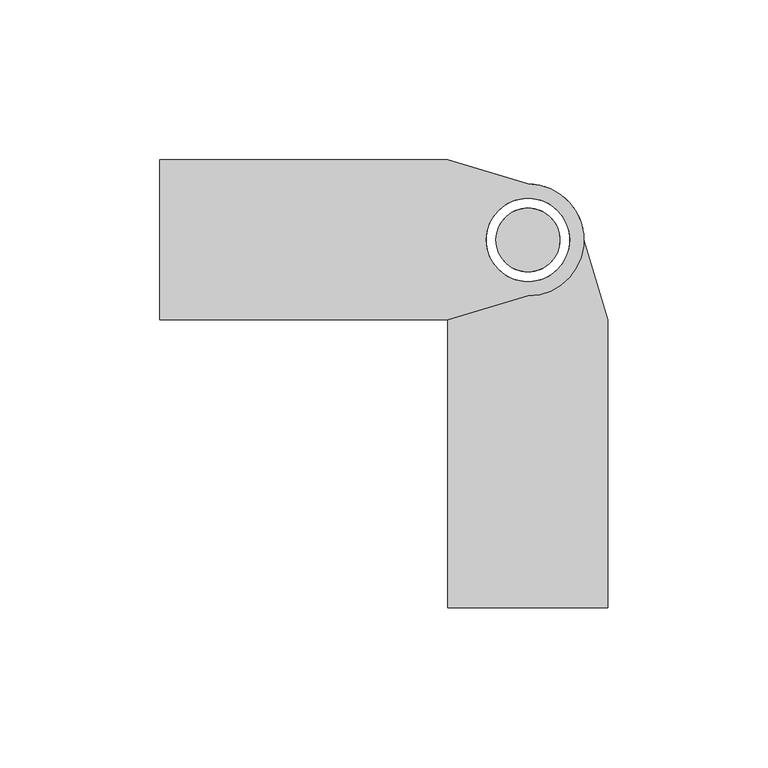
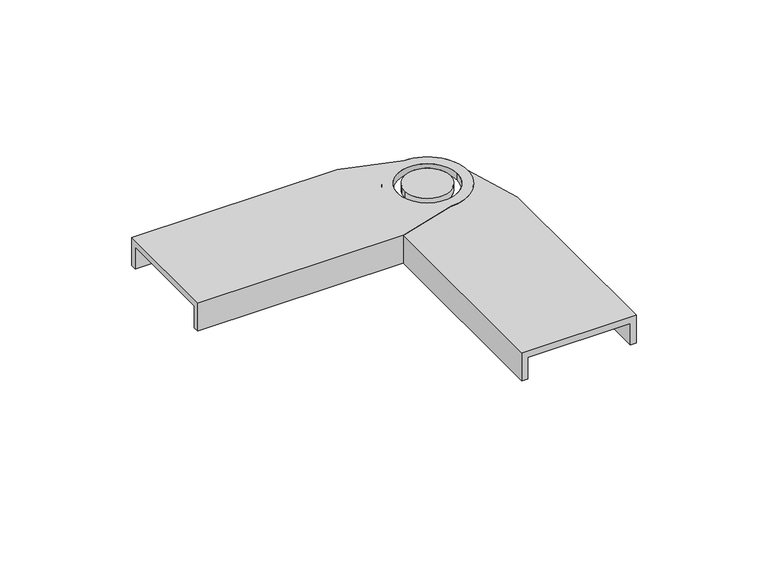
"""IFC4 building model written with IfcOpenShell, lengths in millimetres: cable carrier fitting geometry, BAKS_LD_BEND_Articulated connector_LG : LGT_H45."""

import ifcopenshell
import ifcopenshell.guid

model = None  # the IFC model being written
_history = None  # IfcOwnerHistory: only IFC2X3 demands one
_inside = {}  # id of a spatial element -> (the spatial element, [elements in it])
_under = {}  # id of a project, library or spatial element -> (it, [spatial elements below it])
_declared = {}  # id of a project -> (the project, [libraries it declares])
_typed = {}  # id of a type object -> (the type object, [elements of that type])
_made_of = {}  # id of a material, layer set ... -> (it, [elements and type objects made of it])


def new_model(schema):
    """Start an empty IFC model of exactly this schema.

    Asked for "IFC4X3", IfcOpenShell would pick the latest addendum, in which some entities
    have other attributes; the version numbers below select the first issue.
    IFC2X3 requires an IfcOwnerHistory on every rooted entity: one is made here for all.
    """
    global model, _history
    if schema == "IFC4X3":
        model = ifcopenshell.file(schema_version=(4, 3, 0, 0))
    else:
        model = ifcopenshell.file(schema=schema)
    _inside.clear()
    _under.clear()
    _declared.clear()
    _typed.clear()
    _made_of.clear()
    _history = None
    if model.schema == "IFC2X3":
        org = make("IfcOrganization", Name="unknown")
        user = make(
            "IfcPersonAndOrganization",
            ThePerson=make("IfcPerson", FamilyName="unknown"),
            TheOrganization=org,
        )
        app = make(
            "IfcApplication",
            ApplicationDeveloper=org,
            Version="unknown",
            ApplicationFullName="unknown",
            ApplicationIdentifier="unknown",
        )
        _history = make(
            "IfcOwnerHistory",
            OwningUser=user,
            OwningApplication=app,
            ChangeAction="ADDED",
            CreationDate=0,
        )
    return model


def make(cls, **values):
    """One entity of the class cls with the attributes given. An attribute that is None is left unset."""
    return model.create_entity(
        cls, **{name: value for name, value in values.items() if value is not None}
    )


def rooted(cls, **values):
    """An entity with a GlobalId (a new one), such as an element, a storey or a relation."""
    return make(cls, GlobalId=ifcopenshell.guid.new(), OwnerHistory=_history, **values)


def si_unit(unit_type, name, prefix=None):
    """IfcSIUnit, for example si_unit("LENGTHUNIT", "METRE", prefix="MILLI")."""
    return make("IfcSIUnit", UnitType=unit_type, Prefix=prefix, Name=name)


def assignment(units):
    """IfcUnitAssignment: the units of a project."""
    return None if units is None else make("IfcUnitAssignment", Units=units)


def point(xyz):
    """IfcCartesianPoint."""
    return None if xyz is None else make("IfcCartesianPoint", Coordinates=xyz)


def direction(xyz):
    """IfcDirection."""
    return None if xyz is None else make("IfcDirection", DirectionRatios=xyz)


def frame(location, z_axis=None, x_axis=None):
    """IfcAxis2Placement3D, a coordinate frame: its origin and axes. An axis left out is left unset."""
    return make(
        "IfcAxis2Placement3D",
        Location=point(location),
        Axis=direction(z_axis),
        RefDirection=direction(x_axis),
    )


def origin():
    """The frame at (0, 0, 0) with its axes left unset."""
    return frame((0.0, 0.0, 0.0))


def place(relative_to, where):
    """IfcLocalPlacement: puts the frame where relative to a parent placement (None: the world)."""
    return make(
        "IfcLocalPlacement", PlacementRelTo=relative_to, RelativePlacement=where
    )


def context(
    kind, dimensions, precision=None, world=None, true_north=None, identifier=None
):
    """IfcGeometricRepresentationContext, for example the 3D "Model" context."""
    return make(
        "IfcGeometricRepresentationContext",
        ContextIdentifier=identifier,
        ContextType=kind,
        CoordinateSpaceDimension=dimensions,
        Precision=precision,
        WorldCoordinateSystem=world,
        TrueNorth=true_north,
    )


def project(units=None, contexts=None):
    """IfcProject with its units and contexts."""
    return rooted(
        "IfcProject",
        Name="project",
        RepresentationContexts=contexts,
        UnitsInContext=assignment(units),
    )


def spatial(cls, under=None, at=None, **own):
    """A site, building, storey or space (cls), placed at a placement, below another one or the project."""
    s = rooted(cls, ObjectPlacement=at, **own)
    if under is not None:
        _under.setdefault(under.id(), (under, []))[1].append(s)
    return s


def polyline(points):
    """IfcPolyline through the points."""
    return make("IfcPolyline", Points=[point(p) for p in points])


def circle_curve(where, radius):
    """IfcCircle in the frame where."""
    return make("IfcCircle", Position=where, Radius=radius)


def shape(context_of_items, identifier, shape_type, items):
    """IfcShapeRepresentation: the items that make up one representation, for example the "Body"."""
    return make(
        "IfcShapeRepresentation",
        ContextOfItems=context_of_items,
        RepresentationIdentifier=identifier,
        RepresentationType=shape_type,
        Items=items,
    )


def source(mapping_origin, context_of_items, identifier, shape_type, items):
    """IfcRepresentationMap: a shape defined once, which mapped items show again and again."""
    return make(
        "IfcRepresentationMap",
        MappingOrigin=mapping_origin,
        MappedRepresentation=shape(context_of_items, identifier, shape_type, items),
    )


def transform(
    local_origin,
    x_axis=None,
    y_axis=None,
    z_axis=None,
    scale=None,
    scale2=None,
    scale3=None,
    uniform=True,
):
    """IfcCartesianTransformationOperator3D, or its non-uniform kind. x_axis, y_axis, z_axis: its Axis1, 2, 3."""
    if uniform:
        return make(
            "IfcCartesianTransformationOperator3D",
            Axis1=direction(x_axis),
            Axis2=direction(y_axis),
            LocalOrigin=point(local_origin),
            Scale=scale,
            Axis3=direction(z_axis),
        )
    return make(
        "IfcCartesianTransformationOperator3DnonUniform",
        Axis1=direction(x_axis),
        Axis2=direction(y_axis),
        LocalOrigin=point(local_origin),
        Scale=scale,
        Axis3=direction(z_axis),
        Scale2=scale2,
        Scale3=scale3,
    )


def mapped(mapping_source, mapping_target):
    """IfcMappedItem: shows the shape of a source again, moved by a transform."""
    return make(
        "IfcMappedItem", MappingSource=mapping_source, MappingTarget=mapping_target
    )


def made_of(thing, what):
    """Note that an element or type object is made of a material, layer set ...; save() writes the relation."""
    if what is not None:
        _made_of.setdefault(what.id(), (what, []))[1].append(thing)
    return thing


def element(
    cls,
    number,
    at=None,
    inside=None,
    cuts=None,
    type_object=None,
    material=None,
    context=None,
    identifier="Body",
    shape_type=None,
    held_by="IfcProductDefinitionShape",
    body=None,
    shapes=None,
    **own,
):
    """One element of the class cls, such as IfcWall. Its Tag is "e" and its number.

    at: its placement. inside: the storey or other place that contains it. cuts: it is an
    opening in that element (IfcRelVoidsElement). A single representation is given by context,
    identifier, shape_type and body (its items); several are given by shapes. held_by: the class
    of the entity that holds the representations. save() writes the other relations.
    """
    e = rooted(cls, Tag="e%d" % number, ObjectPlacement=at, **own)
    if body is not None:
        shapes = [shape(context, identifier, shape_type, body)]
    if shapes is not None:
        e.Representation = make(held_by, Representations=shapes)
    if inside is not None:
        _inside.setdefault(inside.id(), (inside, []))[1].append(e)
    if cuts is not None:
        rooted(
            "IfcRelVoidsElement", RelatingBuildingElement=cuts, RelatedOpeningElement=e
        )
    if type_object is not None:
        _typed.setdefault(type_object.id(), (type_object, []))[1].append(e)
    return made_of(e, material)


def aggregate(whole, parts):
    """IfcRelAggregates: a whole, such as a stair, and the parts it consists of."""
    return rooted("IfcRelAggregates", RelatingObject=whole, RelatedObjects=parts)


def save(model, path):
    """Write the relations noted so far, then the file.

    IfcRelAggregates (storeys below a building ...), IfcRelContainedInSpatialStructure (elements
    in a storey), IfcRelDefinesByType, IfcRelAssociatesMaterial and IfcRelDeclares: one each for
    every whole, place, type object, material and project.
    """
    for whole, parts in _under.values():
        aggregate(whole, parts)
    for where, things in _inside.values():
        rooted(
            "IfcRelContainedInSpatialStructure",
            RelatedElements=things,
            RelatingStructure=where,
        )
    for kind, things in _typed.values():
        rooted("IfcRelDefinesByType", RelatedObjects=things, RelatingType=kind)
    for what, things in _made_of.values():
        rooted("IfcRelAssociatesMaterial", RelatedObjects=things, RelatingMaterial=what)
    for by, libraries in _declared.values():
        rooted("IfcRelDeclares", RelatingContext=by, RelatedDefinitions=libraries)
    model.write(path)


def plane_surface(at):
    """IfcPlane: the flat surface through the origin of the frame at, square to its z axis."""
    return make("IfcPlane", Position=at)


def cylinder_surface(at, radius):
    """IfcCylindricalSurface: all points at the distance radius from the z axis of the frame at."""
    return make("IfcCylindricalSurface", Position=at, Radius=radius)


def revolved_surface(curve, axis_point, axis_direction):
    """IfcSurfaceOfRevolution: the curve turned about the line through axis_point along axis_direction."""
    return make(
        "IfcSurfaceOfRevolution",
        SweptCurve=make("IfcArbitraryOpenProfileDef", ProfileType="CURVE", Curve=curve),
        AxisPosition=make("IfcAxis1Placement", Location=point(axis_point), Axis=direction(axis_direction)),
    )


def advanced_brep(points, edges, surfaces, faces):
    """IfcAdvancedBrep: a solid bounded by faces that lie on surfaces and meet in shared edges.

    An edge is (start, end): straight between two places in points (the first is 0);
    or (start, end, curve); or (start, end, curve, False) where it runs against its curve.
    A face is (place in surfaces, loops), or (place, loops, False) where it looks against
    its surface's normal. A loop lists edges by number (the first is 1), with a minus sign
    where the edge is run from its end to its start. The first loop is the outer one.
    """
    corners = [point(p) for p in points]
    vertices = [make("IfcVertexPoint", VertexGeometry=c) for c in corners]
    made = []
    for start, end, *more in edges:
        made.append(
            make(
                "IfcEdgeCurve",
                EdgeStart=vertices[start],
                EdgeEnd=vertices[end],
                EdgeGeometry=more[0] if more else make("IfcPolyline", Points=[corners[start], corners[end]]),
                SameSense=more[1] if len(more) > 1 else True,
            )
        )
    hull = []
    for where, loops, *sense in faces:
        bounds = []
        for j, loop in enumerate(loops):
            ring = [make("IfcOrientedEdge", EdgeElement=made[abs(k) - 1], Orientation=k > 0) for k in loop]
            bounds.append(
                make(
                    "IfcFaceOuterBound" if j == 0 else "IfcFaceBound",
                    Bound=make("IfcEdgeLoop", EdgeList=ring),
                    Orientation=True,
                )
            )
        hull.append(make("IfcAdvancedFace", Bounds=bounds, FaceSurface=surfaces[where], SameSense=sense[0] if sense else True))
    return make("IfcAdvancedBrep", Outer=make("IfcClosedShell", CfsFaces=hull))


def cable_carrier_fitting_4c1293df(model_context):
    return source(origin(), model_context, "Body", "AdvancedBrep", [
        advanced_brep(
        [(-115.0, -25.0, 3.0), (-25.0, -25.0, 3.0), (0.0, -17.5, 3.0), (0.0, 17.5, 3.0), (-25.0, 25.0, 3.0), (-115.0, 25.0, 3.0), (13.0, 0.0, 3.0), (-13.0, 0.0, 3.0), (-25.0, 25.0, 0.0), (0.0, 17.5, 0.0), (0.0, -17.5, 0.0), (-25.0, -25.0, 0.0), (-25.0, -22.5, 0.0), (-115.0, -22.5, 0.0), (-115.0, 22.5, 0.0), (-25.0, 22.5, 0.0), (-13.0, 0.0, 0.0), (13.0, 0.0, 0.0), (-115.0, -25.0, -10.0), (-25.0, -25.0, -10.0), (-25.0, 25.0, -10.0), (-115.0, 25.0, -10.0), (-115.0, 22.5, -10.0), (-115.0, -22.5, -10.0), (-25.0, 22.5, -10.0), (-25.0, -22.5, -10.0)],
        [
            (0, 1),
            (1, 2),
            (2, 3, circle_curve(frame((0.0, 0.0, 3.0), z_axis=(0.0, 0.0, 1.0), x_axis=(-1.0, 0.0, 0.0)), 17.5)),
            (3, 4),
            (4, 5),
            (5, 0),
            (6, 7, circle_curve(frame((0.0, 0.0, 3.0), z_axis=(0.0, 0.0, -1.0), x_axis=(-1.0, 0.0, 0.0)), 13.0)),
            (7, 6, circle_curve(frame((0.0, 0.0, 3.0), z_axis=(0.0, 0.0, -1.0), x_axis=(-1.0, 0.0, 0.0)), 13.0)),
            (8, 9),
            (9, 10, circle_curve(frame((0.0, 0.0, 0.0), z_axis=(0.0, 0.0, -1.0), x_axis=(-1.0, 0.0, 0.0)), 17.5)),
            (10, 11),
            (11, 12),
            (12, 13),
            (13, 14),
            (14, 15),
            (15, 8),
            (16, 17, circle_curve(frame((0.0, 0.0, 0.0), z_axis=(0.0, 0.0, 1.0), x_axis=(-1.0, 0.0, 0.0)), 13.0)),
            (17, 16, circle_curve(frame((0.0, 0.0, 0.0), z_axis=(0.0, 0.0, 1.0), x_axis=(-1.0, 0.0, 0.0)), 13.0)),
            (0, 18),
            (18, 19),
            (19, 11),
            (11, 1),
            (4, 8),
            (8, 20),
            (20, 21),
            (21, 5),
            (21, 22),
            (22, 14),
            (13, 23),
            (23, 18),
            (6, 17),
            (16, 7),
            (10, 2),
            (9, 3),
            (20, 24),
            (24, 22),
            (24, 15),
            (23, 25),
            (25, 19),
            (25, 12),
        ],
        [
            plane_surface(frame((-25.0, -25.0, 3.0), z_axis=(0.0, 0.0, 1.0), x_axis=(1.0, 0.0, 0.0))),
            plane_surface(frame((-25.0, -25.0, 0.0), z_axis=(0.0, 0.0, -1.0), x_axis=(-1.0, 0.0, 0.0))),
            plane_surface(frame((-115.0, -25.0, 3.0), z_axis=(0.0, -1.0, 0.0), x_axis=(0.0, 0.0, -1.0))),
            plane_surface(frame((-25.0, 25.0, 3.0), z_axis=(0.0, 1.0, 0.0), x_axis=(0.0, 0.0, -1.0))),
            plane_surface(frame((-115.0, 25.0, 3.0), z_axis=(-1.0, 0.0, 0.0), x_axis=(0.0, 0.0, -1.0))),
            revolved_surface(polyline([(-13.0, 0.0, 3.0), (-13.0, 0.0, 0.0)]), (0.0, 0.0, 0.0), (0.0, 0.0, 1.0)),
            plane_surface(frame((-25.0, -25.0, 3.0), z_axis=(0.28734788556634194, -0.9578262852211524, 0.0), x_axis=(0.0, 0.0, -1.0))),
            cylinder_surface(frame((0.0, 0.0, 0.0), z_axis=(0.0, 0.0, 1.0), x_axis=(-1.0, 0.0, 0.0)), 17.5),
            plane_surface(frame((0.0, 17.5, 3.0), z_axis=(0.2873478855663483, 0.9578262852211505, 0.0), x_axis=(0.0, 0.0, -1.0))),
            plane_surface(frame((-25.0, 22.5, -10.0), z_axis=(0.0, 0.0, -1.0), x_axis=(-1.0, 0.0, 0.0))),
            plane_surface(frame((-115.0, 22.5, 0.0), z_axis=(0.0, -1.0, 0.0), x_axis=(0.0, 0.0, -1.0))),
            plane_surface(frame((-25.0, 22.5, 0.0), z_axis=(1.0, 0.0, 0.0), x_axis=(0.0, 0.0, -1.0))),
            plane_surface(frame((-25.0, -25.0, -10.0), z_axis=(0.0, 0.0, -1.0), x_axis=(-1.0, 0.0, 0.0))),
            plane_surface(frame((-25.0, -25.0, 0.0), z_axis=(1.0, 0.0, 0.0), x_axis=(0.0, 0.0, -1.0))),
            plane_surface(frame((-25.0, -22.5, 0.0), z_axis=(0.0, 1.0, 0.0), x_axis=(0.0, 0.0, -1.0))),
        ],
        [
            (0, [[1, 2, 3, 4, 5, 6], [7, 8]]),
            (1, [[9, 10, 11, 12, 13, 14, 15, 16], [17, 18]]),
            (2, [[-1, 19, 20, 21, 22]]),
            (3, [[-5, 23, 24, 25, 26]]),
            (4, [[-19, -6, -26, 27, 28, -14, 29, 30]]),
            (5, [[31, -17, 32, -7]]),
            (5, [[-31, -8, -32, -18]]),
            (6, [[-2, -22, -11, 33]]),
            (7, [[-3, -33, -10, 34]]),
            (8, [[-4, -34, -9, -23]]),
            (9, [[-27, -25, 35, 36]]),
            (10, [[-36, 37, -15, -28]]),
            (11, [[-35, -24, -16, -37]]),
            (12, [[-30, 38, 39, -20]]),
            (13, [[-39, 40, -12, -21]]),
            (14, [[-38, -29, -13, -40]]),
        ],
    ),
        advanced_brep(
        [(10.0, 0.0, 3.0), (-10.0, 0.0, 3.0), (-10.0, 0.0, 0.0), (10.0, 0.0, 0.0)],
        [
            (0, 1, circle_curve(frame((0.0, 0.0, 3.0), z_axis=(0.0, 0.0, 1.0), x_axis=(-1.0, 0.0, 0.0)), 10.0)),
            (1, 0, circle_curve(frame((0.0, 0.0, 3.0), z_axis=(0.0, 0.0, 1.0), x_axis=(-1.0, 0.0, 0.0)), 10.0)),
            (2, 3, circle_curve(frame((0.0, 0.0, 0.0), z_axis=(0.0, 0.0, -1.0), x_axis=(-1.0, 0.0, 0.0)), 10.0)),
            (3, 2, circle_curve(frame((0.0, 0.0, 0.0), z_axis=(0.0, 0.0, -1.0), x_axis=(-1.0, 0.0, 0.0)), 10.0)),
            (0, 3),
            (2, 1),
        ],
        [
            plane_surface(frame((-25.0, -25.0, 3.0), z_axis=(0.0, 0.0, 1.0), x_axis=(1.0, 0.0, 0.0))),
            plane_surface(frame((-25.0, -25.0, 0.0), z_axis=(0.0, 0.0, -1.0), x_axis=(-1.0, 0.0, 0.0))),
            cylinder_surface(frame((0.0, 0.0, 0.0), z_axis=(0.0, 0.0, -1.0), x_axis=(-1.0, 0.0, 0.0)), 10.0),
        ],
        [
            (0, [[1, 2]]),
            (1, [[3, 4]]),
            (2, [[5, -3, 6, -1]]),
            (2, [[-5, -2, -6, -4]]),
        ],
    ),
        advanced_brep(
        [(-25.0, -115.0, 3.0), (25.0, -115.0, 3.0), (25.0, -25.0, 3.0), (17.5, 0.0, 3.0), (-17.5, 0.0, 3.0), (-25.0, -25.0, 3.0), (0.0, 13.0, 3.0), (0.0, -13.0, 3.0), (25.0, -25.0, 0.0), (22.5, -25.0, 0.0), (22.5, -115.0, 0.0), (-22.5, -115.0, 0.0), (-22.5, -25.0, 0.0), (-25.0, -25.0, 0.0), (-17.5, 0.0, 0.0), (17.5, 0.0, 0.0), (0.0, -13.0, 0.0), (0.0, 13.0, 0.0), (-25.0, -25.0, -10.0), (-25.0, -115.0, -10.0), (25.0, -115.0, -10.0), (25.0, -25.0, -10.0), (-22.5, -115.0, -10.0), (22.5, -115.0, -10.0), (22.5, -25.0, -10.0), (-22.5, -25.0, -10.0)],
        [
            (0, 1),
            (1, 2),
            (2, 3),
            (3, 4, circle_curve(frame((0.0, 0.0, 3.0), z_axis=(0.0, 0.0, 1.0), x_axis=(0.0, -1.0, 0.0)), 17.5)),
            (4, 5),
            (5, 0),
            (6, 7, circle_curve(frame((0.0, 0.0, 3.0), z_axis=(0.0, 0.0, -1.0), x_axis=(0.0, -1.0, 0.0)), 13.0)),
            (7, 6, circle_curve(frame((0.0, 0.0, 3.0), z_axis=(0.0, 0.0, -1.0), x_axis=(0.0, -1.0, 0.0)), 13.0)),
            (8, 9),
            (9, 10),
            (10, 11),
            (11, 12),
            (12, 13),
            (13, 14),
            (14, 15, circle_curve(frame((0.0, 0.0, 0.0), z_axis=(0.0, 0.0, -1.0), x_axis=(0.0, -1.0, 0.0)), 17.5)),
            (15, 8),
            (16, 17, circle_curve(frame((0.0, 0.0, 0.0), z_axis=(0.0, 0.0, 1.0), x_axis=(0.0, -1.0, 0.0)), 13.0)),
            (17, 16, circle_curve(frame((0.0, 0.0, 0.0), z_axis=(0.0, 0.0, 1.0), x_axis=(0.0, -1.0, 0.0)), 13.0)),
            (5, 13),
            (13, 18),
            (18, 19),
            (19, 0),
            (1, 20),
            (20, 21),
            (21, 8),
            (8, 2),
            (19, 22),
            (22, 11),
            (10, 23),
            (23, 20),
            (7, 16),
            (17, 6),
            (4, 14),
            (3, 15),
            (23, 24),
            (24, 21),
            (9, 24),
            (18, 25),
            (25, 22),
            (12, 25),
        ],
        [
            plane_surface(frame((-25.0, -25.0, 3.0), z_axis=(0.0, 0.0, 1.0), x_axis=(0.0, 1.0, 0.0))),
            plane_surface(frame((-25.0, -25.0, 0.0), z_axis=(0.0, 0.0, -1.0), x_axis=(0.0, -1.0, 0.0))),
            plane_surface(frame((-25.0, -115.0, 3.0), z_axis=(-1.0, 0.0, 0.0), x_axis=(0.0, 0.0, -1.0))),
            plane_surface(frame((25.0, -25.0, 3.0), z_axis=(1.0, 0.0, 0.0), x_axis=(0.0, 0.0, -1.0))),
            plane_surface(frame((25.0, -115.0, 3.0), z_axis=(0.0, -1.0, 0.0), x_axis=(0.0, 0.0, -1.0))),
            revolved_surface(polyline([(0.0, -13.0, 3.0), (0.0, -13.0, 0.0)]), (0.0, 0.0, 0.0), (0.0, 0.0, 1.0)),
            plane_surface(frame((-25.0, -25.0, 3.0), z_axis=(-0.9578262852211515, 0.287347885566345, 0.0), x_axis=(0.0, 0.0, -1.0))),
            cylinder_surface(frame((0.0, 0.0, 0.0), z_axis=(0.0, 0.0, 1.0), x_axis=(0.0, -1.0, 0.0)), 17.5),
            plane_surface(frame((17.5, 0.0, 3.0), z_axis=(0.9578262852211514, 0.2873478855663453, 0.0), x_axis=(0.0, 0.0, -1.0))),
            plane_surface(frame((22.5, -25.0, -10.0), z_axis=(0.0, 0.0, -1.0), x_axis=(0.0, -1.0, 0.0))),
            plane_surface(frame((22.5, -115.0, 0.0), z_axis=(-1.0, 0.0, 0.0), x_axis=(0.0, 0.0, -1.0))),
            plane_surface(frame((22.5, -25.0, 0.0), z_axis=(0.0, 1.0, 0.0), x_axis=(0.0, 0.0, -1.0))),
            plane_surface(frame((-25.0, -25.0, -10.0), z_axis=(0.0, 0.0, -1.0), x_axis=(0.0, -1.0, 0.0))),
            plane_surface(frame((-25.0, -25.0, 0.0), z_axis=(0.0, 1.0, 0.0), x_axis=(0.0, 0.0, -1.0))),
            plane_surface(frame((-22.5, -25.0, 0.0), z_axis=(1.0, 0.0, 0.0), x_axis=(0.0, 0.0, -1.0))),
        ],
        [
            (0, [[1, 2, 3, 4, 5, 6], [7, 8]]),
            (1, [[9, 10, 11, 12, 13, 14, 15, 16], [17, 18]]),
            (2, [[19, 20, 21, 22, -6]]),
            (3, [[23, 24, 25, 26, -2]]),
            (4, [[27, 28, -11, 29, 30, -23, -1, -22]]),
            (5, [[-8, 31, -18, 32]]),
            (5, [[-17, -31, -7, -32]]),
            (6, [[33, -14, -19, -5]]),
            (7, [[34, -15, -33, -4]]),
            (8, [[-26, -16, -34, -3]]),
            (9, [[35, 36, -24, -30]]),
            (10, [[-29, -10, 37, -35]]),
            (11, [[-37, -9, -25, -36]]),
            (12, [[-21, 38, 39, -27]]),
            (13, [[-20, -13, 40, -38]]),
            (14, [[-40, -12, -28, -39]]),
        ],
    ),
        advanced_brep(
        [(0.0, 10.0, 3.0), (0.0, -10.0, 3.0), (0.0, -10.0, 0.0), (0.0, 10.0, 0.0)],
        [
            (0, 1, circle_curve(frame((0.0, 0.0, 3.0), z_axis=(0.0, 0.0, 1.0), x_axis=(0.0, -1.0, 0.0)), 10.0)),
            (1, 0, circle_curve(frame((0.0, 0.0, 3.0), z_axis=(0.0, 0.0, 1.0), x_axis=(0.0, -1.0, 0.0)), 10.0)),
            (2, 3, circle_curve(frame((0.0, 0.0, 0.0), z_axis=(0.0, 0.0, -1.0), x_axis=(0.0, -1.0, 0.0)), 10.0)),
            (3, 2, circle_curve(frame((0.0, 0.0, 0.0), z_axis=(0.0, 0.0, -1.0), x_axis=(0.0, -1.0, 0.0)), 10.0)),
            (1, 2),
            (3, 0),
        ],
        [
            plane_surface(frame((-25.0, -25.0, 3.0), z_axis=(0.0, 0.0, 1.0), x_axis=(0.0, 1.0, 0.0))),
            plane_surface(frame((-25.0, -25.0, 0.0), z_axis=(0.0, 0.0, -1.0), x_axis=(0.0, -1.0, 0.0))),
            cylinder_surface(frame((0.0, 0.0, 0.0), z_axis=(0.0, 0.0, -1.0), x_axis=(0.0, -1.0, 0.0)), 10.0),
        ],
        [
            (0, [[1, 2]]),
            (1, [[3, 4]]),
            (2, [[-2, 5, -4, 6]]),
            (2, [[-3, -5, -1, -6]]),
        ],
    ),
    ])


if __name__ == "__main__":
    model = new_model("IFC4")
    model_context = context("Model", 3, world=origin())
    ifc_project = project(units=[si_unit("LENGTHUNIT", "METRE", prefix="MILLI")], contexts=[model_context])
    site = spatial("IfcSite", under=ifc_project)
    building = spatial("IfcBuilding", under=site)
    placement = place(None, origin())
    cable_carrier_fitting_shape = cable_carrier_fitting_4c1293df(model_context)
    element("IfcCableCarrierFitting", 1, ObjectType="BAKS_LD_BEND_Articulated connector_LG : LGT_H45", at=placement, inside=building, context=model_context, shape_type="MappedRepresentation", body=[
        mapped(cable_carrier_fitting_shape, transform((0.0, 0.0, 0.0), x_axis=(1.0, 0.0, 0.0), y_axis=(0.0, 1.0, 0.0), z_axis=(0.0, 0.0, 1.0))),
    ])
    save(model, "model.ifc")
